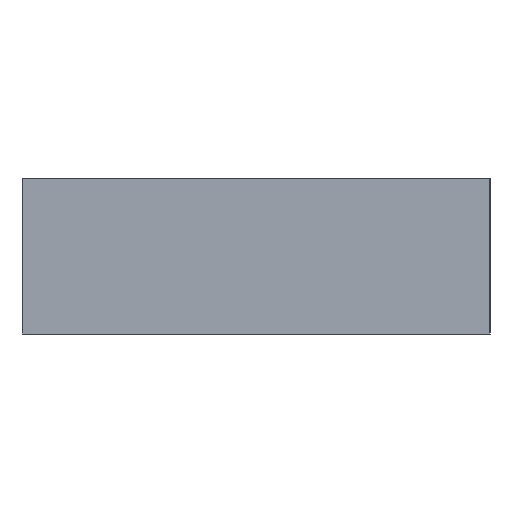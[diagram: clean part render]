
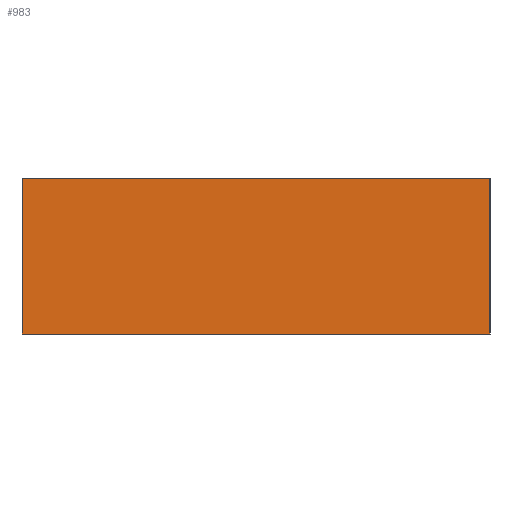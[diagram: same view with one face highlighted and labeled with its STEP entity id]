
A CAD part, left-side view. The second image highlights one B-rep face of the part: STEP entity #983.
In plain terms, the highlighted planar face has unit normal (-1, 0, 0).
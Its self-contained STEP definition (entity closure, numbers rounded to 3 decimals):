
#33 = ORIENTED_EDGE ( 'NONE', *, *, #1254, .T. ) ;
#58 = LINE ( 'NONE', #271, #639 ) ;
#70 = LINE ( 'NONE', #1156, #339 ) ;
#115 = CARTESIAN_POINT ( 'NONE',  ( -54., -15., -5. ) ) ;
#123 = ORIENTED_EDGE ( 'NONE', *, *, #243, .F. ) ;
#148 = LINE ( 'NONE', #1264, #217 ) ;
#150 = VERTEX_POINT ( 'NONE', #613 ) ;
#199 = EDGE_CURVE ( 'NONE', #150, #725, #148, .T. ) ;
#202 = CARTESIAN_POINT ( 'NONE',  ( -54., 15., -5. ) ) ;
#206 = CARTESIAN_POINT ( 'NONE',  ( -54., 15., 5. ) ) ;
#217 = VECTOR ( 'NONE', #1145, 1000. ) ;
#243 = EDGE_CURVE ( 'NONE', #150, #1080, #70, .T. ) ;
#271 = CARTESIAN_POINT ( 'NONE',  ( -54., 15., -5. ) ) ;
#339 = VECTOR ( 'NONE', #741, 1000. ) ;
#379 = VECTOR ( 'NONE', #780, 1000. ) ;
#391 = EDGE_CURVE ( 'NONE', #1080, #860, #874, .T. ) ;
#495 = FACE_OUTER_BOUND ( 'NONE', #1051, .T. ) ;
#613 = CARTESIAN_POINT ( 'NONE',  ( -54., 15., 5. ) ) ;
#632 = ORIENTED_EDGE ( 'NONE', *, *, #391, .F. ) ;
#639 = VECTOR ( 'NONE', #1036, 1000. ) ;
#666 = CARTESIAN_POINT ( 'NONE',  ( -54., -15., 5. ) ) ;
#692 = PLANE ( 'NONE',  #1219 ) ;
#725 = VERTEX_POINT ( 'NONE', #202 ) ;
#741 = DIRECTION ( 'NONE',  ( 0., -1., 0. ) ) ;
#780 = DIRECTION ( 'NONE',  ( 0., 0., -1. ) ) ;
#860 = VERTEX_POINT ( 'NONE', #115 ) ;
#866 = DIRECTION ( 'NONE',  ( 1., 0., 0. ) ) ;
#874 = LINE ( 'NONE', #666, #379 ) ;
#983 = ADVANCED_FACE ( 'NONE', ( #495 ), #692, .F. ) ;
#1023 = ORIENTED_EDGE ( 'NONE', *, *, #199, .T. ) ;
#1036 = DIRECTION ( 'NONE',  ( 0., -1., 0. ) ) ;
#1051 = EDGE_LOOP ( 'NONE', ( #33, #632, #123, #1023 ) ) ;
#1080 = VERTEX_POINT ( 'NONE', #1188 ) ;
#1081 = DIRECTION ( 'NONE',  ( 0., 0., -1. ) ) ;
#1145 = DIRECTION ( 'NONE',  ( 0., 0., -1. ) ) ;
#1156 = CARTESIAN_POINT ( 'NONE',  ( -54., 15., 5. ) ) ;
#1188 = CARTESIAN_POINT ( 'NONE',  ( -54., -15., 5. ) ) ;
#1219 = AXIS2_PLACEMENT_3D ( 'NONE', #206, #866, #1081 ) ;
#1254 = EDGE_CURVE ( 'NONE', #725, #860, #58, .T. ) ;
#1264 = CARTESIAN_POINT ( 'NONE',  ( -54., 15., 5. ) ) ;
